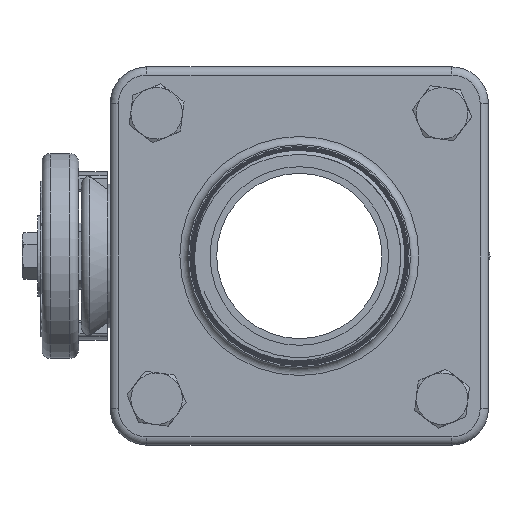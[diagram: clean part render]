
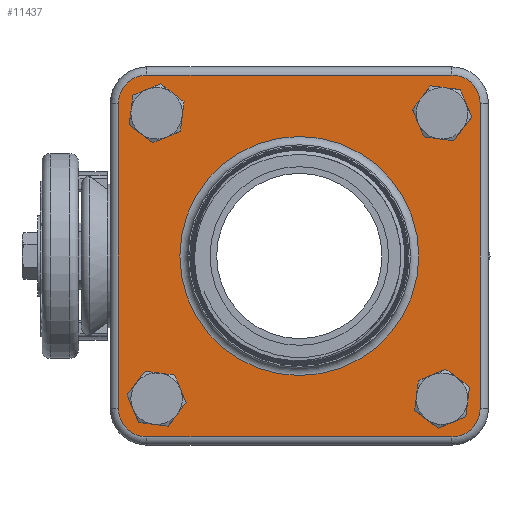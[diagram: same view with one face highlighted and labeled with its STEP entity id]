
A CAD part, left-side view. The second image highlights one B-rep face of the part: STEP entity #11437.
In plain terms, the highlighted planar face has unit normal (-1, 0, 0) as drawn and (1, 0, 0) by its records, which use the part's own axes.
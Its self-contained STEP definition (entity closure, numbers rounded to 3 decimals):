
#2333=PLANE('',#12161);
#2586=VECTOR('',#13234,1.);
#2589=VECTOR('',#13241,1.);
#2590=VECTOR('',#13260,1.);
#2593=VECTOR('',#13267,1.);
#3218=LINE('',#17674,#2586);
#3221=LINE('',#17681,#2589);
#3222=LINE('',#17698,#2590);
#3225=LINE('',#17705,#2593);
#4408=VERTEX_POINT('',#17664);
#4409=VERTEX_POINT('',#17666);
#4412=VERTEX_POINT('',#17673);
#4413=VERTEX_POINT('',#17678);
#4416=VERTEX_POINT('',#17685);
#4417=VERTEX_POINT('',#17690);
#4420=VERTEX_POINT('',#17697);
#4421=VERTEX_POINT('',#17702);
#4428=VERTEX_POINT('',#17729);
#4429=VERTEX_POINT('',#17731);
#4430=VERTEX_POINT('',#17733);
#4431=VERTEX_POINT('',#17735);
#4432=VERTEX_POINT('',#17737);
#5282=CIRCLE('',#12133,0.787);
#5288=CIRCLE('',#12142,0.787);
#5292=CIRCLE('',#12147,0.787);
#5296=CIRCLE('',#12154,0.787);
#5299=CIRCLE('',#12162,3.315);
#5300=CIRCLE('',#12163,0.493);
#5301=CIRCLE('',#12164,0.493);
#5302=CIRCLE('',#12165,0.493);
#5303=CIRCLE('',#12166,0.493);
#5735=EDGE_CURVE('',#4408,#4409,#5282,.T.);
#5739=EDGE_CURVE('',#4412,#4408,#3218,.T.);
#5743=EDGE_CURVE('',#4409,#4413,#3221,.T.);
#5745=EDGE_CURVE('',#4416,#4412,#5288,.T.);
#5749=EDGE_CURVE('',#4413,#4417,#5292,.T.);
#5751=EDGE_CURVE('',#4420,#4416,#3222,.T.);
#5755=EDGE_CURVE('',#4417,#4421,#3225,.T.);
#5757=EDGE_CURVE('',#4421,#4420,#5296,.T.);
#5767=EDGE_CURVE('',#4428,#4428,#5299,.T.);
#5768=EDGE_CURVE('',#4429,#4429,#5300,.T.);
#5769=EDGE_CURVE('',#4430,#4430,#5301,.T.);
#5770=EDGE_CURVE('',#4431,#4431,#5302,.T.);
#5771=EDGE_CURVE('',#4432,#4432,#5303,.T.);
#7502=ORIENTED_EDGE('',*,*,#5767,.F.);
#7503=ORIENTED_EDGE('',*,*,#5768,.T.);
#7504=ORIENTED_EDGE('',*,*,#5769,.T.);
#7505=ORIENTED_EDGE('',*,*,#5770,.T.);
#7506=ORIENTED_EDGE('',*,*,#5771,.T.);
#7507=ORIENTED_EDGE('',*,*,#5735,.F.);
#7508=ORIENTED_EDGE('',*,*,#5739,.F.);
#7509=ORIENTED_EDGE('',*,*,#5745,.F.);
#7510=ORIENTED_EDGE('',*,*,#5751,.F.);
#7511=ORIENTED_EDGE('',*,*,#5757,.F.);
#7512=ORIENTED_EDGE('',*,*,#5755,.F.);
#7513=ORIENTED_EDGE('',*,*,#5749,.F.);
#7514=ORIENTED_EDGE('',*,*,#5743,.F.);
#10024=EDGE_LOOP('',(#7502));
#10025=EDGE_LOOP('',(#7503));
#10026=EDGE_LOOP('',(#7504));
#10027=EDGE_LOOP('',(#7505));
#10028=EDGE_LOOP('',(#7506));
#10029=EDGE_LOOP('',(#7507,#7508,#7509,#7510,#7511,#7512,#7513,#7514));
#10754=FACE_BOUND('',#10024,.T.);
#10755=FACE_BOUND('',#10025,.T.);
#10756=FACE_BOUND('',#10026,.T.);
#10757=FACE_BOUND('',#10027,.T.);
#10758=FACE_BOUND('',#10028,.T.);
#10759=FACE_BOUND('',#10029,.T.);
#11437=ADVANCED_FACE('',(#10754,#10755,#10756,#10757,#10758,#10759),#2333,
 .T.);
#12133=AXIS2_PLACEMENT_3D('',#17665,#13224,#13225);
#12142=AXIS2_PLACEMENT_3D('',#17686,#13245,#13246);
#12147=AXIS2_PLACEMENT_3D('',#17693,#13254,#13255);
#12154=AXIS2_PLACEMENT_3D('',#17708,#13271,#13272);
#12161=AXIS2_PLACEMENT_3D('',#17727,#13290,$);
#12162=AXIS2_PLACEMENT_3D('',#17728,#13291,#13292);
#12163=AXIS2_PLACEMENT_3D('',#17730,#13293,#13294);
#12164=AXIS2_PLACEMENT_3D('',#17732,#13295,#13296);
#12165=AXIS2_PLACEMENT_3D('',#17734,#13297,#13298);
#12166=AXIS2_PLACEMENT_3D('',#17736,#13299,#13300);
#13224=DIRECTION('',(-1.,0.,0.));
#13225=DIRECTION('',(0.,0.557,0.557));
#13234=DIRECTION('',(0.,1.,0.));
#13241=DIRECTION('',(0.,0.,-1.));
#13245=DIRECTION('',(-1.,0.,0.));
#13246=DIRECTION('',(0.,-0.557,0.557));
#13254=DIRECTION('',(-1.,0.,0.));
#13255=DIRECTION('',(0.,0.557,-0.557));
#13260=DIRECTION('',(0.,0.,1.));
#13267=DIRECTION('',(0.,-1.,0.));
#13271=DIRECTION('',(-1.,0.,0.));
#13272=DIRECTION('',(0.,-0.557,-0.557));
#13290=DIRECTION('',(1.,0.,0.));
#13291=DIRECTION('',(1.,0.,0.));
#13292=DIRECTION('',(0.,0.,3.315));
#13293=DIRECTION('',(-1.,0.,0.));
#13294=DIRECTION('',(0.,0.493,0.));
#13295=DIRECTION('',(-1.,0.,0.));
#13296=DIRECTION('',(0.,0.,-0.493));
#13297=DIRECTION('',(-1.,0.,0.));
#13298=DIRECTION('',(0.,-0.493,0.));
#13299=DIRECTION('',(-1.,0.,0.));
#13300=DIRECTION('',(0.,0.,0.493));
#17664=CARTESIAN_POINT('',(1.6,4.229,5.017));
#17665=CARTESIAN_POINT('',(1.6,4.229,4.229));
#17666=CARTESIAN_POINT('',(1.6,5.017,4.229));
#17673=CARTESIAN_POINT('',(1.6,-4.229,5.017));
#17674=CARTESIAN_POINT('',(1.6,0.,5.017));
#17678=CARTESIAN_POINT('',(1.6,5.017,-4.229));
#17681=CARTESIAN_POINT('',(1.6,5.017,0.));
#17685=CARTESIAN_POINT('',(1.6,-5.017,4.229));
#17686=CARTESIAN_POINT('',(1.6,-4.229,4.229));
#17690=CARTESIAN_POINT('',(1.6,4.229,-5.017));
#17693=CARTESIAN_POINT('',(1.6,4.229,-4.229));
#17697=CARTESIAN_POINT('',(1.6,-5.017,-4.229));
#17698=CARTESIAN_POINT('',(1.6,-5.017,0.));
#17702=CARTESIAN_POINT('',(1.6,-4.229,-5.017));
#17705=CARTESIAN_POINT('',(1.6,0.,-5.017));
#17708=CARTESIAN_POINT('',(1.6,-4.229,-4.229));
#17727=CARTESIAN_POINT('',(1.6,0.,0.));
#17728=CARTESIAN_POINT('',(1.6,0.,0.));
#17729=CARTESIAN_POINT('',(1.6,0.,-3.315));
#17730=CARTESIAN_POINT('',(1.6,3.958,-3.958));
#17731=CARTESIAN_POINT('',(1.6,3.466,-3.958));
#17732=CARTESIAN_POINT('',(1.6,-3.958,-3.958));
#17733=CARTESIAN_POINT('',(1.6,-3.958,-3.466));
#17734=CARTESIAN_POINT('',(1.6,-3.958,3.958));
#17735=CARTESIAN_POINT('',(1.6,-3.466,3.958));
#17736=CARTESIAN_POINT('',(1.6,3.958,3.958));
#17737=CARTESIAN_POINT('',(1.6,3.958,3.466));
